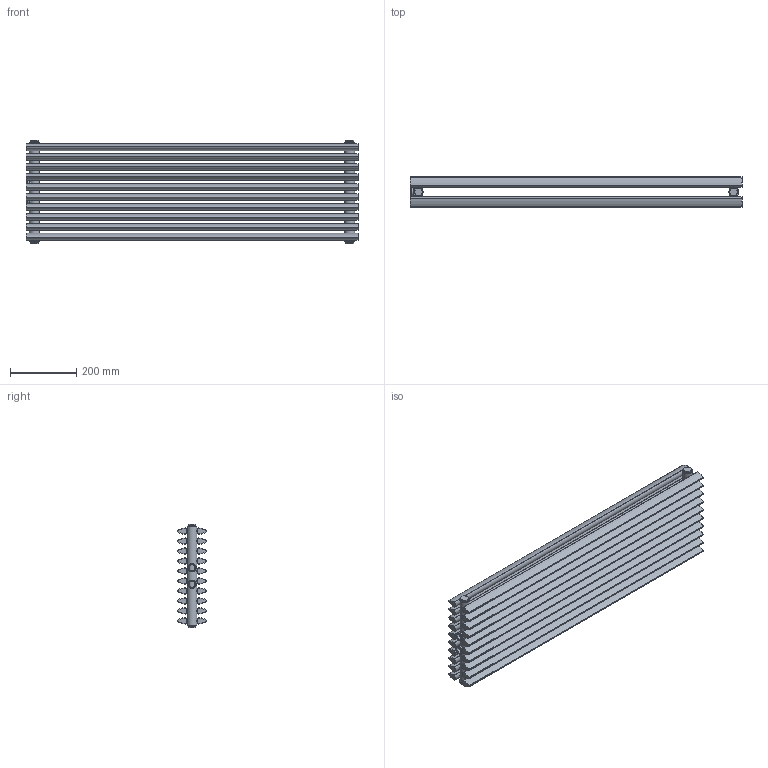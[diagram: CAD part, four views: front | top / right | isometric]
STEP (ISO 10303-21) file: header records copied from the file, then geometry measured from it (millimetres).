
FILE_DESCRIPTION(/* description */ (''),/* implementation_level */ '2;1');
FILE_NAME(/* name */ 'C:\Grzejniki\13DLUXRAD\pokojowe\AURORA\AURORA PODWÓJNA 1000x300.iam.stp',/* time_stamp */ '2016-06-28T17:31:34+02:00',/* author */ ('m.szydziak'),/* organization */ (''),/* preprocessor_version */ 'ST-DEVELOPER v16.5',/* originating_system */ 'Autodesk Inventor 2017',/* authorisation */ '');
FILE_SCHEMA (('AUTOMOTIVE_DESIGN { 1 0 10303 214 3 1 1 }'));
Length unit declared in the file: millimetre
Products named in the file (6): AURORA PODWÓJNA 1000x300; fi30x1,5x300; ZDC dzwonki; dzwonek G0,5inch; 30x20x1,2x1000; korek
Assembly tree (29 placements, depth 3):
  AURORA PODWÓJNA 1000x300
    fi30x1,5x300  x2
    ZDC dzwonki
      dzwonek G0,5inch  x2
    30x20x1,2x1000  x20
    korek  x4
Bounding box: 1000 x 89.98 x 312 mm (x, y, z)
Volume: 1930945.4 mm3; surface area: 3177014.1 mm2
Topology: 28 solids, 28 shells, 434 faces, 1106 edges, 776 vertices
Faces by surface type: cylinder 278, plane 152, cone 2, bspline 2
Full cylindrical faces by diameter (mm): 5 x16, 6 x40, 16 x2, 18.5 x2, 18.631 x6, 22.9 x2, 24 x4, 25.3 x2, 27 x2, 30 x2
Entity records: 2657 total; most frequent: CARTESIAN_POINT 1016, DIRECTION 326, ORIENTED_EDGE 238, AXIS2_PLACEMENT_3D 146, EDGE_CURVE 119, EDGE_LOOP 107, VERTEX_POINT 96, FACE_OUTER_BOUND 58
